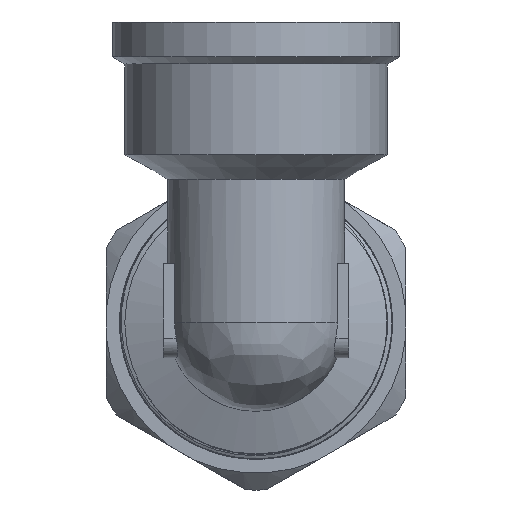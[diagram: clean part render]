
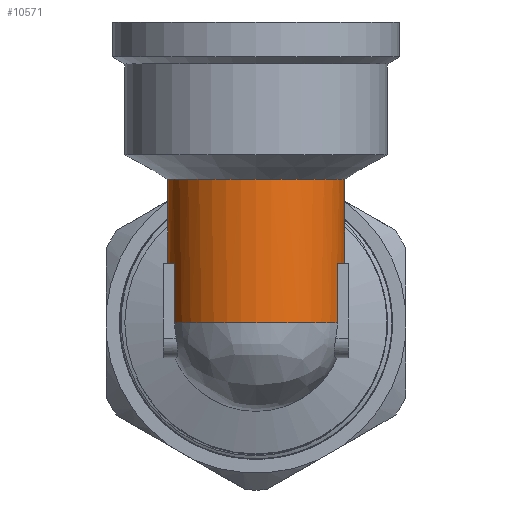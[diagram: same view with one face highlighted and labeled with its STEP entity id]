
A CAD part, front view. The second image highlights one B-rep face of the part: STEP entity #10571.
In plain terms, the highlighted cylindrical face has radius 12.65 mm (diameter 25.3 mm), a full revolution.
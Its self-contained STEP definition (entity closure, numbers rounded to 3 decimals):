
#1038=ELLIPSE('',#11294,17.89,12.65);
#1310=CYLINDRICAL_SURFACE('',#11292,12.65);
#1418=FACE_OUTER_BOUND('',#2025,.T.);
#2025=EDGE_LOOP('',(#7218,#7219,#7220,#7221,#7222,#7223,#7224,#7225,#7226,
#7227,#7228,#7229,#7230,#7231));
#2681=LINE('',#13903,#3382);
#2682=LINE('',#13907,#3383);
#2683=LINE('',#13911,#3384);
#2684=LINE('',#13915,#3385);
#2685=LINE('',#13919,#3386);
#3382=VECTOR('',#11961,12.65);
#3383=VECTOR('',#11964,10.);
#3384=VECTOR('',#11967,10.);
#3385=VECTOR('',#11970,10.);
#3386=VECTOR('',#11973,10.);
#4094=CIRCLE('',#11285,12.65);
#4095=CIRCLE('',#11286,12.65);
#4096=CIRCLE('',#11287,12.65);
#4099=CIRCLE('',#11293,12.65);
#4100=CIRCLE('',#11295,12.65);
#4101=CIRCLE('',#11296,12.65);
#4102=CIRCLE('',#11297,12.65);
#4366=VERTEX_POINT('',#13886);
#4367=VERTEX_POINT('',#13888);
#4368=VERTEX_POINT('',#13890);
#4371=VERTEX_POINT('',#13902);
#4372=VERTEX_POINT('',#13904);
#4373=VERTEX_POINT('',#13906);
#4374=VERTEX_POINT('',#13908);
#4375=VERTEX_POINT('',#13910);
#4376=VERTEX_POINT('',#13912);
#4377=VERTEX_POINT('',#13914);
#4378=VERTEX_POINT('',#13916);
#4379=VERTEX_POINT('',#13918);
#5507=EDGE_CURVE('',#4367,#4366,#4094,.T.);
#5508=EDGE_CURVE('',#4368,#4367,#4095,.T.);
#5509=EDGE_CURVE('',#4366,#4368,#4096,.T.);
#5514=EDGE_CURVE('',#4368,#4371,#2681,.T.);
#5515=EDGE_CURVE('',#4371,#4372,#4099,.T.);
#5516=EDGE_CURVE('',#4372,#4373,#2682,.T.);
#5517=EDGE_CURVE('',#4374,#4373,#1038,.T.);
#5518=EDGE_CURVE('',#4374,#4375,#2683,.T.);
#5519=EDGE_CURVE('',#4375,#4376,#4100,.T.);
#5520=EDGE_CURVE('',#4376,#4377,#2684,.T.);
#5521=EDGE_CURVE('',#4377,#4378,#4101,.T.);
#5522=EDGE_CURVE('',#4378,#4379,#2685,.T.);
#5523=EDGE_CURVE('',#4379,#4371,#4102,.T.);
#7218=ORIENTED_EDGE('',*,*,#5507,.T.);
#7219=ORIENTED_EDGE('',*,*,#5509,.T.);
#7220=ORIENTED_EDGE('',*,*,#5514,.T.);
#7221=ORIENTED_EDGE('',*,*,#5515,.T.);
#7222=ORIENTED_EDGE('',*,*,#5516,.T.);
#7223=ORIENTED_EDGE('',*,*,#5517,.F.);
#7224=ORIENTED_EDGE('',*,*,#5518,.T.);
#7225=ORIENTED_EDGE('',*,*,#5519,.T.);
#7226=ORIENTED_EDGE('',*,*,#5520,.T.);
#7227=ORIENTED_EDGE('',*,*,#5521,.T.);
#7228=ORIENTED_EDGE('',*,*,#5522,.T.);
#7229=ORIENTED_EDGE('',*,*,#5523,.T.);
#7230=ORIENTED_EDGE('',*,*,#5514,.F.);
#7231=ORIENTED_EDGE('',*,*,#5508,.T.);
#10571=ADVANCED_FACE('',(#1418),#1310,.T.);
#11285=AXIS2_PLACEMENT_3D('',#13889,#11943,#11944);
#11286=AXIS2_PLACEMENT_3D('',#13891,#11945,#11946);
#11287=AXIS2_PLACEMENT_3D('',#13892,#11947,#11948);
#11292=AXIS2_PLACEMENT_3D('',#13901,#11959,#11960);
#11293=AXIS2_PLACEMENT_3D('',#13905,#11962,#11963);
#11294=AXIS2_PLACEMENT_3D('',#13909,#11965,#11966);
#11295=AXIS2_PLACEMENT_3D('',#13913,#11968,#11969);
#11296=AXIS2_PLACEMENT_3D('',#13917,#11971,#11972);
#11297=AXIS2_PLACEMENT_3D('',#13920,#11974,#11975);
#11943=DIRECTION('center_axis',(0.,0.,-1.));
#11944=DIRECTION('ref_axis',(-1.,0.,0.));
#11945=DIRECTION('center_axis',(0.,0.,-1.));
#11946=DIRECTION('ref_axis',(-1.,0.,0.));
#11947=DIRECTION('center_axis',(0.,0.,-1.));
#11948=DIRECTION('ref_axis',(-1.,0.,0.));
#11959=DIRECTION('center_axis',(0.,0.,1.));
#11960=DIRECTION('ref_axis',(-1.,0.,0.));
#11961=DIRECTION('',(0.,0.,-1.));
#11962=DIRECTION('center_axis',(0.,0.,1.));
#11963=DIRECTION('ref_axis',(-1.,0.,0.));
#11964=DIRECTION('',(0.,0.,-1.));
#11965=DIRECTION('center_axis',(0.,0.707,-0.707));
#11966=DIRECTION('ref_axis',(0.,-0.707,-0.707));
#11967=DIRECTION('',(0.,0.,1.));
#11968=DIRECTION('center_axis',(0.,0.,1.));
#11969=DIRECTION('ref_axis',(-1.,0.,0.));
#11970=DIRECTION('',(0.,0.,-1.));
#11971=DIRECTION('center_axis',(0.,0.,1.));
#11972=DIRECTION('ref_axis',(-1.,0.,0.));
#11973=DIRECTION('',(0.,0.,1.));
#11974=DIRECTION('center_axis',(0.,0.,1.));
#11975=DIRECTION('ref_axis',(-1.,0.,0.));
#13886=CARTESIAN_POINT('',(0.,-29.35,20.5));
#13888=CARTESIAN_POINT('',(0.,-54.65,20.5));
#13889=CARTESIAN_POINT('Origin',(0.,-42.,20.5));
#13890=CARTESIAN_POINT('',(12.65,-42.,20.5));
#13891=CARTESIAN_POINT('Origin',(0.,-42.,20.5));
#13892=CARTESIAN_POINT('Origin',(0.,-42.,20.5));
#13901=CARTESIAN_POINT('Origin',(0.,-42.,0.));
#13902=CARTESIAN_POINT('',(12.65,-42.,8.5));
#13903=CARTESIAN_POINT('',(12.65,-42.,0.));
#13904=CARTESIAN_POINT('',(11.62,-37.,8.5));
#13905=CARTESIAN_POINT('Origin',(0.,-42.,8.5));
#13906=CARTESIAN_POINT('',(11.62,-37.,5.));
#13907=CARTESIAN_POINT('',(11.62,-37.,0.));
#13908=CARTESIAN_POINT('',(-11.62,-37.,5.));
#13909=CARTESIAN_POINT('Origin',(0.,-42.,0.));
#13910=CARTESIAN_POINT('',(-11.62,-37.,8.5));
#13911=CARTESIAN_POINT('',(-11.62,-37.,0.));
#13912=CARTESIAN_POINT('',(-11.62,-47.,8.5));
#13913=CARTESIAN_POINT('Origin',(0.,-42.,8.5));
#13914=CARTESIAN_POINT('',(-11.62,-47.,0.));
#13915=CARTESIAN_POINT('',(-11.62,-47.,0.));
#13916=CARTESIAN_POINT('',(11.62,-47.,0.));
#13917=CARTESIAN_POINT('Origin',(0.,-42.,0.));
#13918=CARTESIAN_POINT('',(11.62,-47.,8.5));
#13919=CARTESIAN_POINT('',(11.62,-47.,0.));
#13920=CARTESIAN_POINT('Origin',(0.,-42.,8.5));
